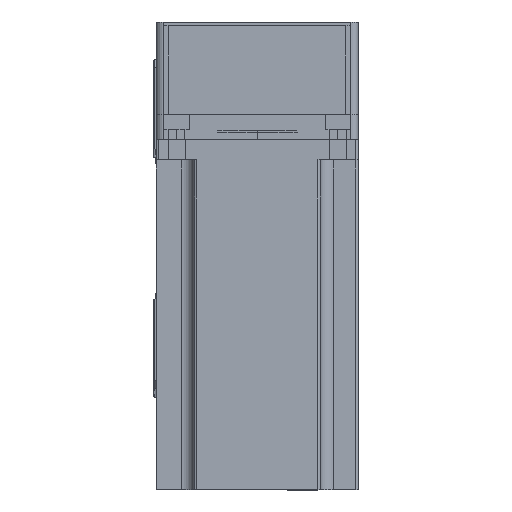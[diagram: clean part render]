
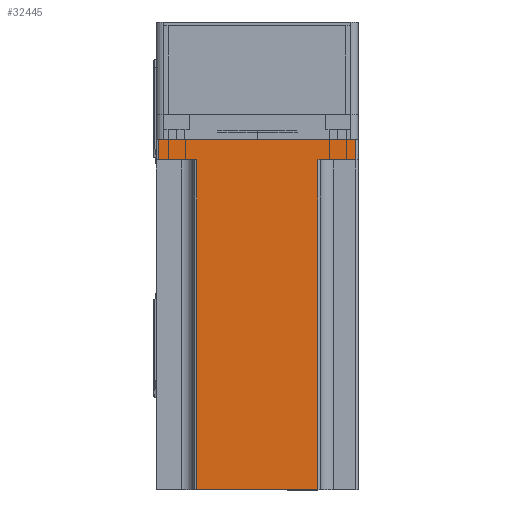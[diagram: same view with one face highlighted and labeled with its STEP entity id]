
A CAD part, top view. The second image highlights one B-rep face of the part: STEP entity #32445.
In plain terms, the highlighted planar face has unit normal (0, 0, 1) as drawn and (0, 1, 0) by its records, which use the part's own axes.
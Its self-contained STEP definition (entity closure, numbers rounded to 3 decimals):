
#818 = CARTESIAN_POINT ( 'NONE',  ( 24., 40., 8. ) ) ;
#1540 = VERTEX_POINT ( 'NONE', #14336 ) ;
#1828 = DIRECTION ( 'NONE',  ( -1., 0., 0. ) ) ;
#1852 = EDGE_CURVE ( 'NONE', #34024, #1540, #53364, .T. ) ;
#3027 = VECTOR ( 'NONE', #6858, 1000. ) ;
#4630 = DIRECTION ( 'NONE',  ( 0., 0., -1. ) ) ;
#5907 = ORIENTED_EDGE ( 'NONE', *, *, #10200, .T. ) ;
#6858 = DIRECTION ( 'NONE',  ( 0., 0., 1. ) ) ;
#7128 = VERTEX_POINT ( 'NONE', #57134 ) ;
#7984 = CARTESIAN_POINT ( 'NONE',  ( -25., 40., 8. ) ) ;
#10200 = EDGE_CURVE ( 'NONE', #1540, #16125, #16979, .T. ) ;
#10755 = EDGE_CURVE ( 'NONE', #14461, #7128, #40158, .T. ) ;
#11437 = DIRECTION ( 'NONE',  ( 0., -1., 0. ) ) ;
#14336 = CARTESIAN_POINT ( 'NONE',  ( -24., 40., 8. ) ) ;
#14461 = VERTEX_POINT ( 'NONE', #20394 ) ;
#15298 = DIRECTION ( 'NONE',  ( 0., 0., -1. ) ) ;
#15454 = ORIENTED_EDGE ( 'NONE', *, *, #10755, .T. ) ;
#15939 = DIRECTION ( 'NONE',  ( -1., 0., 0. ) ) ;
#16125 = VERTEX_POINT ( 'NONE', #17929 ) ;
#16164 = VECTOR ( 'NONE', #15939, 1000. ) ;
#16205 = CARTESIAN_POINT ( 'NONE',  ( -39., 40., 138.3 ) ) ;
#16979 = LINE ( 'NONE', #53776, #3027 ) ;
#17929 = CARTESIAN_POINT ( 'NONE',  ( -24., 40., 138.3 ) ) ;
#19578 = CARTESIAN_POINT ( 'NONE',  ( 24., 40., 138.3 ) ) ;
#20231 = CARTESIAN_POINT ( 'NONE',  ( -39., 40., 8. ) ) ;
#20394 = CARTESIAN_POINT ( 'NONE',  ( 39., 40., 0. ) ) ;
#20520 = ORIENTED_EDGE ( 'NONE', *, *, #1852, .T. ) ;
#20646 = PLANE ( 'NONE',  #40636 ) ;
#21427 = VERTEX_POINT ( 'NONE', #19578 ) ;
#22284 = EDGE_CURVE ( 'NONE', #7128, #34024, #60896, .T. ) ;
#25882 = LINE ( 'NONE', #52802, #49431 ) ;
#26963 = DIRECTION ( 'NONE',  ( -1., 0., 0. ) ) ;
#30212 = LINE ( 'NONE', #48907, #16164 ) ;
#32445 = ADVANCED_FACE ( 'NONE', ( #46610 ), #20646, .F. ) ;
#33778 = LINE ( 'NONE', #42288, #35286 ) ;
#34024 = VERTEX_POINT ( 'NONE', #20231 ) ;
#34763 = CARTESIAN_POINT ( 'NONE',  ( 40., 40., 0. ) ) ;
#34947 = VECTOR ( 'NONE', #26963, 1000. ) ;
#35286 = VECTOR ( 'NONE', #4630, 1000. ) ;
#36737 = ORIENTED_EDGE ( 'NONE', *, *, #43931, .F. ) ;
#36788 = EDGE_LOOP ( 'NONE', ( #20520, #5907, #36737, #59447, #59984, #49982, #15454, #55392 ) ) ;
#38281 = EDGE_CURVE ( 'NONE', #21427, #47485, #25882, .T. ) ;
#39487 = EDGE_CURVE ( 'NONE', #41891, #14461, #33778, .T. ) ;
#39582 = CARTESIAN_POINT ( 'NONE',  ( 40., 40., 138.3 ) ) ;
#40158 = LINE ( 'NONE', #34763, #52692 ) ;
#40636 = AXIS2_PLACEMENT_3D ( 'NONE', #39582, #11437, #44321 ) ;
#40830 = VECTOR ( 'NONE', #50334, 1000. ) ;
#41891 = VERTEX_POINT ( 'NONE', #50834 ) ;
#42288 = CARTESIAN_POINT ( 'NONE',  ( 39., 40., 138.3 ) ) ;
#43931 = EDGE_CURVE ( 'NONE', #21427, #16125, #30212, .T. ) ;
#44321 = DIRECTION ( 'NONE',  ( 1., 0., 0. ) ) ;
#45677 = CARTESIAN_POINT ( 'NONE',  ( 25., 40., 8. ) ) ;
#46610 = FACE_OUTER_BOUND ( 'NONE', #36788, .T. ) ;
#46894 = VECTOR ( 'NONE', #53913, 1000. ) ;
#47485 = VERTEX_POINT ( 'NONE', #818 ) ;
#48907 = CARTESIAN_POINT ( 'NONE',  ( 40., 40., 138.3 ) ) ;
#48927 = LINE ( 'NONE', #45677, #34947 ) ;
#49431 = VECTOR ( 'NONE', #15298, 1000. ) ;
#49982 = ORIENTED_EDGE ( 'NONE', *, *, #39487, .T. ) ;
#50334 = DIRECTION ( 'NONE',  ( 1., 0., 0. ) ) ;
#50834 = CARTESIAN_POINT ( 'NONE',  ( 39., 40., 8. ) ) ;
#52692 = VECTOR ( 'NONE', #1828, 1000. ) ;
#52802 = CARTESIAN_POINT ( 'NONE',  ( 24., 40., 138.3 ) ) ;
#53364 = LINE ( 'NONE', #7984, #40830 ) ;
#53776 = CARTESIAN_POINT ( 'NONE',  ( -24., 40., 138.3 ) ) ;
#53913 = DIRECTION ( 'NONE',  ( 0., 0., 1. ) ) ;
#55392 = ORIENTED_EDGE ( 'NONE', *, *, #22284, .T. ) ;
#57134 = CARTESIAN_POINT ( 'NONE',  ( -39., 40., 0. ) ) ;
#59447 = ORIENTED_EDGE ( 'NONE', *, *, #38281, .T. ) ;
#59913 = EDGE_CURVE ( 'NONE', #41891, #47485, #48927, .T. ) ;
#59984 = ORIENTED_EDGE ( 'NONE', *, *, #59913, .F. ) ;
#60896 = LINE ( 'NONE', #16205, #46894 ) ;
